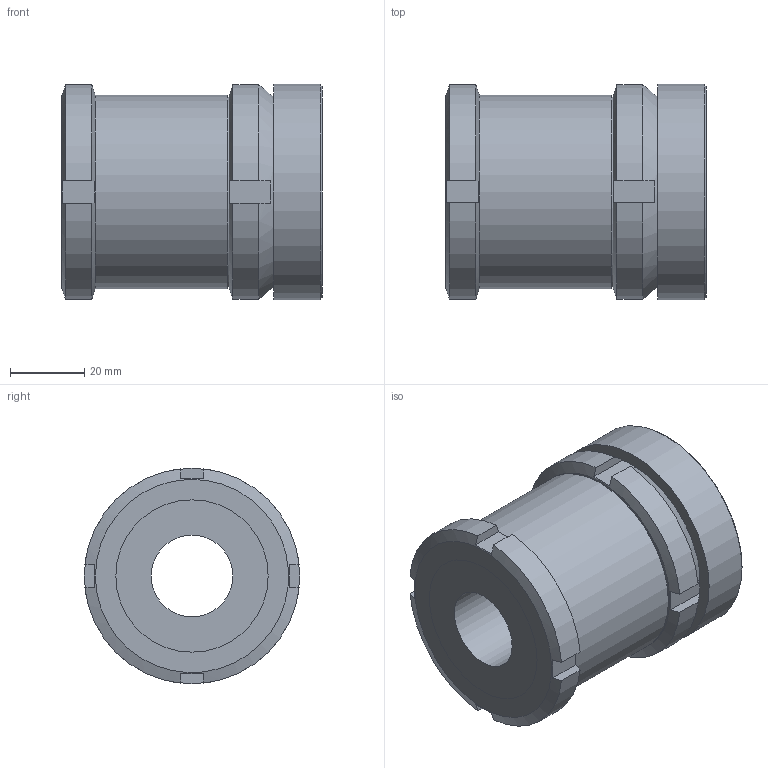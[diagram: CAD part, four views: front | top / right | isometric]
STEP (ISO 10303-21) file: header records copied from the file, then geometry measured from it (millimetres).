
FILE_DESCRIPTION( ( 'STEP AP203' ), '1' );
FILE_NAME( 'C:/Temp/Ganter_Step_05_03_2020/data/3_2/gn350_2/gn_350_2_ni/Stainless Steel-Levelling set GN 350.2-58-22-70-NI (0-0).stp', '2020-03-13T05:28:12', ( 'License CC BY-ND 4.0' ), ( 'CADENAS' ), ' ', 'PARTsolutions', ' ' );
FILE_SCHEMA( ( 'CONFIG_CONTROL_DESIGN' ) );
Length unit declared in the file: millimetre
Products named in the file (4): Stainless Steel-Levelling set GN 350.2-58-22-70-NI (0-0); _Levelling set GN 350.2-58-22-70-ST-G; _Levelling set GN 350.2-58-22-70-ST-K; _Levelling set GN 350.2-58-22-70-ST-P(0)
Assembly tree (3 placements, depth 2):
  Stainless Steel-Levelling set GN 350.2-58-22-70-NI (0-0)
    _Levelling set GN 350.2-58-22-70-ST-G
    _Levelling set GN 350.2-58-22-70-ST-K
    _Levelling set GN 350.2-58-22-70-ST-P(0)
Bounding box: 70 x 58 x 58 mm (x, y, z)
Volume: 133206.6 mm3; surface area: 40708.7 mm2
Topology: 3 solids, 3 shells, 62 faces, 149 edges, 99 vertices
Faces by surface type: plane 36, cylinder 19, cone 5, sphere 2
Full cylindrical faces by diameter (mm): 22 x1, 31.5 x1, 33.485 x1, 34.5 x1, 38.376 x1, 39 x1, 40 x1, 41 x2, 52 x1, 58 x1
Entity records: 1925 total; most frequent: CARTESIAN_POINT 462, DIRECTION 276, ORIENTED_EDGE 248, EDGE_CURVE 124, AXIS2_PLACEMENT_3D 122, EDGE_LOOP 92, VERTEX_POINT 92, FACE_OUTER_BOUND 75
